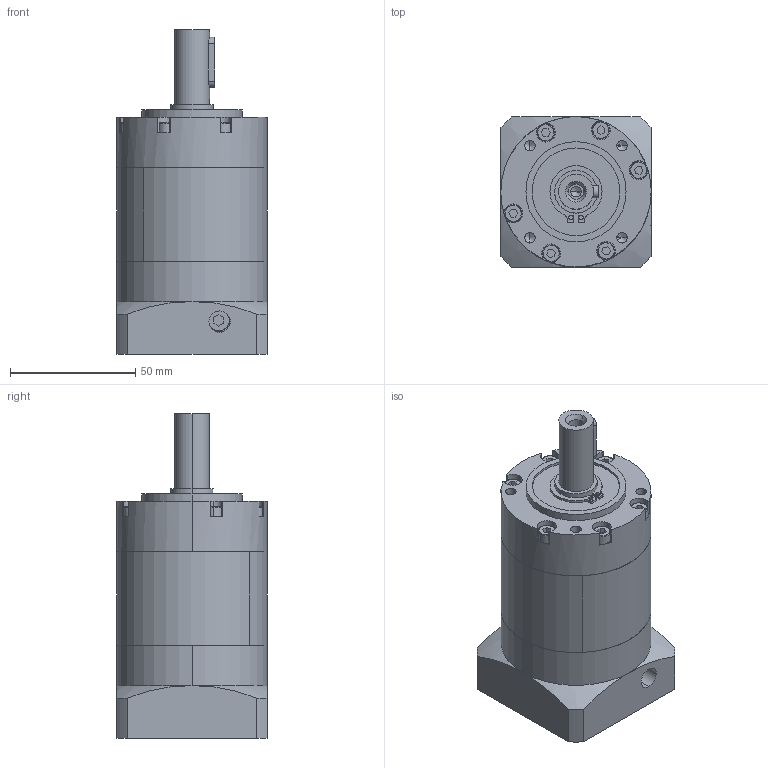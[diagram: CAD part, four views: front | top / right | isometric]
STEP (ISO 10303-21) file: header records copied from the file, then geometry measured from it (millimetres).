
FILE_DESCRIPTION (( 'STEP AP203' ), '1' );
FILE_NAME ('PLE060-L2-11-50-70.STEP', '2026-09-16T02:17:08', ( 'Windows User' ), ( 'P R C' ), 'SwSTEP 2.0', 'SolidWorks 2016', '' );
FILE_SCHEMA (( 'CONFIG_CONTROL_DESIGN' ));
Length unit declared in the file: millimetre
Products named in the file (8): 囀鞠褒蹟佪 M5℅16; B-PLE60 內齿圈_二级内齿圈; B-PLE60 奻屳唳; B-PLE60 狟屳唳11_D6-60 D7-14 梓袧; B-PLE60-連接板标准-尾座款_1; 邧埴瑩 5x5x20; GB／T276-94深沟球轴承61905-2RZ; PLE060-L2-11-50-70
Assembly tree (7 placements, depth 2):
  PLE060-L2-11-50-70
    囀鞠褒蹟佪 M5℅16
    B-PLE60 內齿圈_二级内齿圈
    B-PLE60 奻屳唳
    B-PLE60 狟屳唳11_D6-60 D7-14 梓袧
    B-PLE60-連接板标准-尾座款_1
    邧埴瑩 5x5x20
    GB／T276-94深沟球轴承61905-2RZ
Bounding box: 60 x 60 x 129.5 mm (x, y, z)
Volume: 249535 mm3; surface area: 64962.2 mm2
Topology: 7 solids, 7 shells, 1027 faces, 2798 edges, 1837 vertices
Faces by surface type: plane 545, bspline 295, cylinder 161, cone 26
Entity records: 43713 total; most frequent: CARTESIAN_POINT 18824, ORIENTED_EDGE 5536, DIRECTION 4121, EDGE_CURVE 2768, VERTEX_POINT 1831, LINE 1517, VECTOR 1517, AXIS2_PLACEMENT_3D 1302
